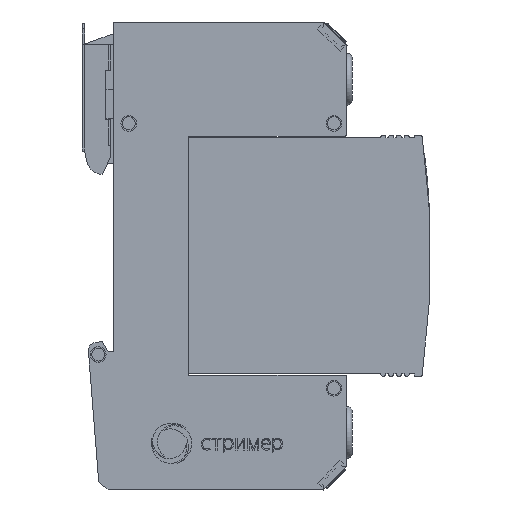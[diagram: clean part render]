
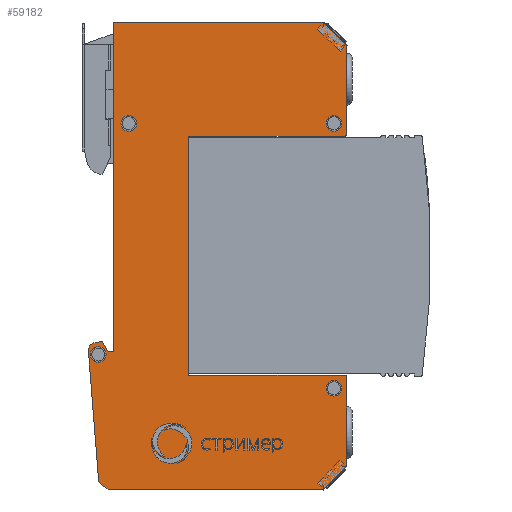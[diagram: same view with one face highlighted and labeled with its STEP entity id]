
A CAD part, front view. The second image highlights one B-rep face of the part: STEP entity #59182.
In plain terms, the highlighted planar face has unit normal (0, -1, 0).
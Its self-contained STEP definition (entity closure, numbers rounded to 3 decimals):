
#57492=CARTESIAN_POINT('',(-14.5,-18.,45.));
#57493=VERTEX_POINT('',#57492);
#57500=CARTESIAN_POINT('',(26.,-18.,45.));
#57501=VERTEX_POINT('',#57500);
#57502=CARTESIAN_POINT('',(-14.5,-18.,45.));
#57503=DIRECTION('',(1.,-0.,-0.));
#57504=VECTOR('',#57503,40.5);
#57505=LINE('',#57502,#57504);
#57506=EDGE_CURVE('',#57493,#57501,#57505,.T.);
#58130=CARTESIAN_POINT('',(-14.5,-18.,-18.5));
#58131=VERTEX_POINT('',#58130);
#58138=CARTESIAN_POINT('',(-14.5,-18.,-18.5));
#58139=DIRECTION('',(-0.,-0.,1.));
#58140=VECTOR('',#58139,63.5);
#58141=LINE('',#58138,#58140);
#58142=EDGE_CURVE('',#58131,#57493,#58141,.T.);
#58337=CARTESIAN_POINT('',(-15.5,-18.,-45.));
#58338=VERTEX_POINT('',#58337);
#58345=CARTESIAN_POINT('',(-17.29,-18.,-43.498));
#58346=VERTEX_POINT('',#58345);
#58347=CARTESIAN_POINT('',(-15.5,-18.,-45.));
#58348=DIRECTION('',(-0.766,-0.,0.643));
#58349=VECTOR('',#58348,2.337);
#58350=LINE('',#58347,#58349);
#58351=EDGE_CURVE('',#58338,#58346,#58350,.T.);
#58376=CARTESIAN_POINT('',(-19.273,-18.,-18.306));
#58377=VERTEX_POINT('',#58376);
#58378=CARTESIAN_POINT('',(-17.29,-18.,-43.498));
#58379=DIRECTION('',(-0.078,-0.,0.997));
#58380=VECTOR('',#58379,25.27);
#58381=LINE('',#58378,#58380);
#58382=EDGE_CURVE('',#58346,#58377,#58381,.T.);
#58408=CARTESIAN_POINT('',(-17.999,-18.,-16.704));
#58409=VERTEX_POINT('',#58408);
#58410=CARTESIAN_POINT('',(-17.777,-18.,-18.188));
#58411=DIRECTION('',(0.,1.,0.));
#58412=DIRECTION('',(0.,-0.,1.));
#58413=AXIS2_PLACEMENT_3D('',#58410,#58411,#58412);
#58414=CIRCLE('',#58413,1.5);
#58415=EDGE_CURVE('',#58377,#58409,#58414,.T.);
#58440=CARTESIAN_POINT('',(-16.632,-18.,-16.5));
#58441=VERTEX_POINT('',#58440);
#58442=CARTESIAN_POINT('',(-17.999,-18.,-16.704));
#58443=DIRECTION('',(0.989,-0.,0.148));
#58444=VECTOR('',#58443,1.383);
#58445=LINE('',#58442,#58444);
#58446=EDGE_CURVE('',#58409,#58441,#58445,.T.);
#58471=CARTESIAN_POINT('',(-15.5,-18.,-18.5));
#58472=VERTEX_POINT('',#58471);
#58473=CARTESIAN_POINT('',(-16.632,-18.,-16.5));
#58474=DIRECTION('',(0.492,0.,-0.87));
#58475=VECTOR('',#58474,2.298);
#58476=LINE('',#58473,#58475);
#58477=EDGE_CURVE('',#58441,#58472,#58476,.T.);
#58500=CARTESIAN_POINT('',(-15.5,-18.,-18.5));
#58501=DIRECTION('',(1.,-0.,-0.));
#58502=VECTOR('',#58501,1.);
#58503=LINE('',#58500,#58502);
#58504=EDGE_CURVE('',#58472,#58131,#58503,.T.);
#58524=CARTESIAN_POINT('',(30.5,-18.,40.5));
#58525=VERTEX_POINT('',#58524);
#58526=CARTESIAN_POINT('',(26.,-18.,45.));
#58527=DIRECTION('',(0.707,0.,-0.707));
#58528=VECTOR('',#58527,6.364);
#58529=LINE('',#58526,#58528);
#58530=EDGE_CURVE('',#57501,#58525,#58529,.T.);
#58575=CARTESIAN_POINT('',(30.5,-18.,23.5));
#58576=VERTEX_POINT('',#58575);
#58577=CARTESIAN_POINT('',(30.5,-18.,40.5));
#58578=DIRECTION('',(-0.,0.,-1.));
#58579=VECTOR('',#58578,17.);
#58580=LINE('',#58577,#58579);
#58581=EDGE_CURVE('',#58525,#58576,#58580,.T.);
#58607=CARTESIAN_POINT('',(30.,-18.,23.));
#58608=VERTEX_POINT('',#58607);
#58609=CARTESIAN_POINT('',(30.,-18.,23.5));
#58610=DIRECTION('',(0.,1.,0.));
#58611=DIRECTION('',(0.,-0.,1.));
#58612=AXIS2_PLACEMENT_3D('',#58609,#58610,#58611);
#58613=CIRCLE('',#58612,0.5);
#58614=EDGE_CURVE('',#58576,#58608,#58613,.T.);
#58639=CARTESIAN_POINT('',(0.,-18.,23.));
#58640=VERTEX_POINT('',#58639);
#58641=CARTESIAN_POINT('',(30.,-18.,23.));
#58642=DIRECTION('',(-1.,-0.,-0.));
#58643=VECTOR('',#58642,30.);
#58644=LINE('',#58641,#58643);
#58645=EDGE_CURVE('',#58608,#58640,#58644,.T.);
#58670=CARTESIAN_POINT('',(0.,-18.,-23.));
#58671=VERTEX_POINT('',#58670);
#58672=CARTESIAN_POINT('',(0.,-18.,23.));
#58673=DIRECTION('',(-0.,0.,-1.));
#58674=VECTOR('',#58673,46.);
#58675=LINE('',#58672,#58674);
#58676=EDGE_CURVE('',#58640,#58671,#58675,.T.);
#58701=CARTESIAN_POINT('',(30.,-18.,-23.));
#58702=VERTEX_POINT('',#58701);
#58703=CARTESIAN_POINT('',(0.,-18.,-23.));
#58704=DIRECTION('',(1.,-0.,-0.));
#58705=VECTOR('',#58704,30.);
#58706=LINE('',#58703,#58705);
#58707=EDGE_CURVE('',#58671,#58702,#58706,.T.);
#58733=CARTESIAN_POINT('',(30.5,-18.,-23.5));
#58734=VERTEX_POINT('',#58733);
#58735=CARTESIAN_POINT('',(30.,-18.,-23.5));
#58736=DIRECTION('',(0.,1.,0.));
#58737=DIRECTION('',(0.,-0.,1.));
#58738=AXIS2_PLACEMENT_3D('',#58735,#58736,#58737);
#58739=CIRCLE('',#58738,0.5);
#58740=EDGE_CURVE('',#58702,#58734,#58739,.T.);
#58785=CARTESIAN_POINT('',(30.5,-18.,-40.5));
#58786=VERTEX_POINT('',#58785);
#58787=CARTESIAN_POINT('',(30.5,-18.,-23.5));
#58788=DIRECTION('',(-0.,0.,-1.));
#58789=VECTOR('',#58788,17.);
#58790=LINE('',#58787,#58789);
#58791=EDGE_CURVE('',#58734,#58786,#58790,.T.);
#58816=CARTESIAN_POINT('',(26.,-18.,-45.));
#58817=VERTEX_POINT('',#58816);
#58818=CARTESIAN_POINT('',(30.5,-18.,-40.5));
#58819=DIRECTION('',(-0.707,0.,-0.707));
#58820=VECTOR('',#58819,6.364);
#58821=LINE('',#58818,#58820);
#58822=EDGE_CURVE('',#58786,#58817,#58821,.T.);
#58838=CARTESIAN_POINT('',(-17.38,-18.,-17.5));
#58839=VERTEX_POINT('',#58838);
#58840=CARTESIAN_POINT('',(-18.88,-18.,-19.));
#58841=VERTEX_POINT('',#58840);
#58842=CARTESIAN_POINT('',(-17.38,-18.,-19.));
#58843=DIRECTION('',(0.,1.,0.));
#58844=DIRECTION('',(0.,-0.,1.));
#58845=AXIS2_PLACEMENT_3D('',#58842,#58843,#58844);
#58846=CIRCLE('',#58845,1.5);
#58847=EDGE_CURVE('',#58839,#58841,#58846,.T.);
#58849=CARTESIAN_POINT('',(-17.38,-18.,-19.));
#58850=DIRECTION('',(0.,1.,0.));
#58851=DIRECTION('',(0.,-0.,1.));
#58852=AXIS2_PLACEMENT_3D('',#58849,#58850,#58851);
#58853=CIRCLE('',#58852,1.5);
#58854=EDGE_CURVE('',#58841,#58839,#58853,.T.);
#58884=CARTESIAN_POINT('',(28.,-18.,-24.));
#58885=VERTEX_POINT('',#58884);
#58886=CARTESIAN_POINT('',(26.5,-18.,-25.5));
#58887=VERTEX_POINT('',#58886);
#58888=CARTESIAN_POINT('',(28.,-18.,-25.5));
#58889=DIRECTION('',(0.,1.,0.));
#58890=DIRECTION('',(0.,-0.,1.));
#58891=AXIS2_PLACEMENT_3D('',#58888,#58889,#58890);
#58892=CIRCLE('',#58891,1.5);
#58893=EDGE_CURVE('',#58885,#58887,#58892,.T.);
#58895=CARTESIAN_POINT('',(28.,-18.,-25.5));
#58896=DIRECTION('',(0.,1.,0.));
#58897=DIRECTION('',(0.,-0.,1.));
#58898=AXIS2_PLACEMENT_3D('',#58895,#58896,#58897);
#58899=CIRCLE('',#58898,1.5);
#58900=EDGE_CURVE('',#58887,#58885,#58899,.T.);
#58930=CARTESIAN_POINT('',(-11.5,-18.,27.));
#58931=VERTEX_POINT('',#58930);
#58932=CARTESIAN_POINT('',(-13.,-18.,25.5));
#58933=VERTEX_POINT('',#58932);
#58934=CARTESIAN_POINT('',(-11.5,-18.,25.5));
#58935=DIRECTION('',(0.,1.,0.));
#58936=DIRECTION('',(0.,-0.,1.));
#58937=AXIS2_PLACEMENT_3D('',#58934,#58935,#58936);
#58938=CIRCLE('',#58937,1.5);
#58939=EDGE_CURVE('',#58931,#58933,#58938,.T.);
#58941=CARTESIAN_POINT('',(-11.5,-18.,25.5));
#58942=DIRECTION('',(0.,1.,0.));
#58943=DIRECTION('',(0.,-0.,1.));
#58944=AXIS2_PLACEMENT_3D('',#58941,#58942,#58943);
#58945=CIRCLE('',#58944,1.5);
#58946=EDGE_CURVE('',#58933,#58931,#58945,.T.);
#58976=CARTESIAN_POINT('',(28.,-18.,27.));
#58977=VERTEX_POINT('',#58976);
#58978=CARTESIAN_POINT('',(26.5,-18.,25.5));
#58979=VERTEX_POINT('',#58978);
#58980=CARTESIAN_POINT('',(28.,-18.,25.5));
#58981=DIRECTION('',(0.,1.,0.));
#58982=DIRECTION('',(0.,-0.,1.));
#58983=AXIS2_PLACEMENT_3D('',#58980,#58981,#58982);
#58984=CIRCLE('',#58983,1.5);
#58985=EDGE_CURVE('',#58977,#58979,#58984,.T.);
#58987=CARTESIAN_POINT('',(28.,-18.,25.5));
#58988=DIRECTION('',(0.,1.,0.));
#58989=DIRECTION('',(0.,-0.,1.));
#58990=AXIS2_PLACEMENT_3D('',#58987,#58988,#58989);
#58991=CIRCLE('',#58990,1.5);
#58992=EDGE_CURVE('',#58979,#58977,#58991,.T.);
#59131=CARTESIAN_POINT('',(26.,-18.,-45.));
#59132=DIRECTION('',(-1.,-0.,-0.));
#59133=VECTOR('',#59132,41.5);
#59134=LINE('',#59131,#59133);
#59135=EDGE_CURVE('',#58817,#58338,#59134,.T.);
#59141=CARTESIAN_POINT('',(0.,-18.,-0.));
#59142=DIRECTION('',(0.,1.,0.));
#59143=DIRECTION('',(0.,0.,-1.));
#59144=AXIS2_PLACEMENT_3D('',#59141,#59142,#59143);
#59145=PLANE('',#59144);
#59146=ORIENTED_EDGE('',*,*,#58992,.T.);
#59147=ORIENTED_EDGE('',*,*,#58985,.T.);
#59148=EDGE_LOOP('',(#59146,#59147));
#59149=FACE_BOUND('',#59148,.T.);
#59150=ORIENTED_EDGE('',*,*,#58946,.T.);
#59151=ORIENTED_EDGE('',*,*,#58939,.T.);
#59152=EDGE_LOOP('',(#59150,#59151));
#59153=FACE_BOUND('',#59152,.T.);
#59154=ORIENTED_EDGE('',*,*,#58900,.T.);
#59155=ORIENTED_EDGE('',*,*,#58893,.T.);
#59156=EDGE_LOOP('',(#59154,#59155));
#59157=FACE_BOUND('',#59156,.T.);
#59158=ORIENTED_EDGE('',*,*,#58854,.T.);
#59159=ORIENTED_EDGE('',*,*,#58847,.T.);
#59160=EDGE_LOOP('',(#59158,#59159));
#59161=FACE_BOUND('',#59160,.T.);
#59162=ORIENTED_EDGE('',*,*,#58351,.F.);
#59163=ORIENTED_EDGE('',*,*,#59135,.F.);
#59164=ORIENTED_EDGE('',*,*,#58822,.F.);
#59165=ORIENTED_EDGE('',*,*,#58791,.F.);
#59166=ORIENTED_EDGE('',*,*,#58740,.F.);
#59167=ORIENTED_EDGE('',*,*,#58707,.F.);
#59168=ORIENTED_EDGE('',*,*,#58676,.F.);
#59169=ORIENTED_EDGE('',*,*,#58645,.F.);
#59170=ORIENTED_EDGE('',*,*,#58614,.F.);
#59171=ORIENTED_EDGE('',*,*,#58581,.F.);
#59172=ORIENTED_EDGE('',*,*,#58530,.F.);
#59173=ORIENTED_EDGE('',*,*,#57506,.F.);
#59174=ORIENTED_EDGE('',*,*,#58142,.F.);
#59175=ORIENTED_EDGE('',*,*,#58504,.F.);
#59176=ORIENTED_EDGE('',*,*,#58477,.F.);
#59177=ORIENTED_EDGE('',*,*,#58446,.F.);
#59178=ORIENTED_EDGE('',*,*,#58415,.F.);
#59179=ORIENTED_EDGE('',*,*,#58382,.F.);
#59180=EDGE_LOOP('',(#59162,#59163,#59164,#59165,#59166,#59167,#59168,#59169,#59170,#59171,#59172,#59173,#59174,#59175,#59176,#59177,#59178,#59179));
#59181=FACE_BOUND('',#59180,.T.);
#59182=ADVANCED_FACE('',(#59149,#59153,#59157,#59161,#59181),#59145,.F.);
